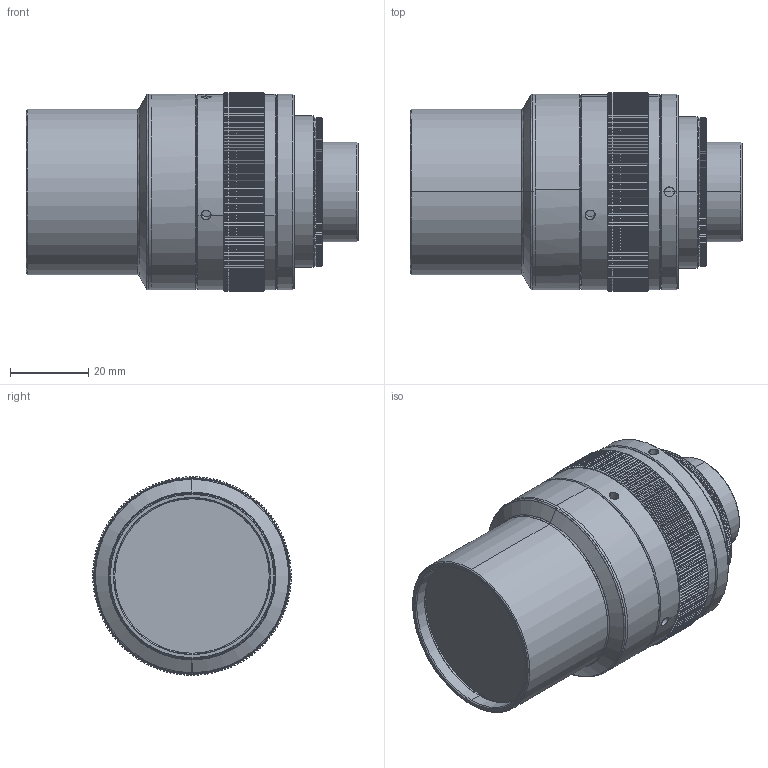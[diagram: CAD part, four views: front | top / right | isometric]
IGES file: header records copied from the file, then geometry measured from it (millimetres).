
Start section: SolidWorks IGES file using analytic representation for surfaces
Global section: file name: 1HC:\Users\16255\Desktop\LASER-75V3-230\A2.0\发客户3D\零件1.IGS; native system: SolidWorks 2017; preprocessor: SolidWorks 2017; author: 16255; date: 230310.152445; units: millimetre
Bounding box: 84.93 x 50.8 x 50.8 mm (x, y, z)
Surface area: 19876.4 mm2 (no closed solid volume)
Topology: 0 solids, 0 shells, 1895 faces, 11350 edges, 11350 vertices
Faces by surface type: revolution 1153, bspline 742
